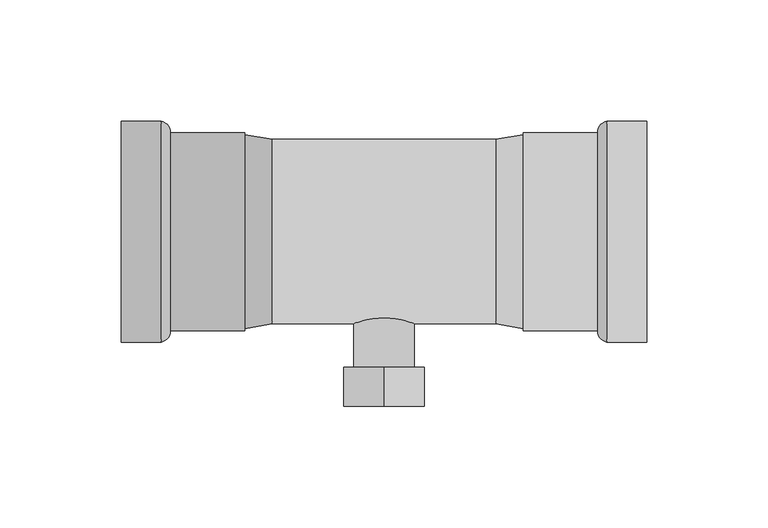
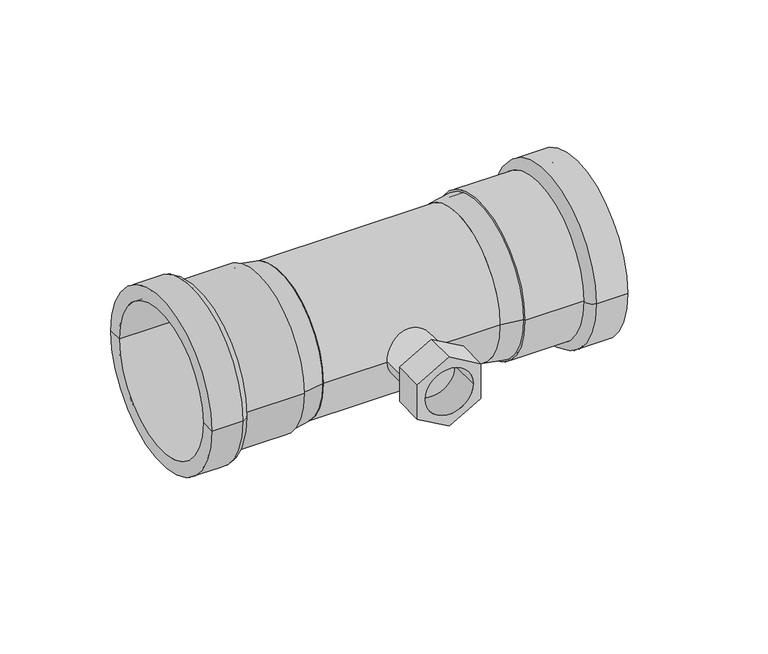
"""IFC4 building model written with IfcOpenShell, lengths in millimetres: pipe fitting geometry, VALTEC_VTi.932.I_Тройник с переходом на внутреннюю резьбу нержавеющая сталь : VTi.932.I."""

from ifc_helpers import new_model, si_unit, point, frame, origin, origin_2d, place, context, project, spatial, polyline, circle_curve, ellipse_curve, trimmed, segment, composite_curve, outline, extrude, source, transform, mapped, element, save
from ifc_brep_helpers import plane_surface, cylinder_surface, revolved_surface, advanced_brep


def pipe_fitting_9bb2d5ee(model_context):
    return source(origin(), model_context, "Body", "SolidModel", [
        advanced_brep(
        [(108.31, -38.05, 0.0), (108.31, -45.5, 0.0), (108.31, 45.5, 0.0), (108.31, 38.05, 0.0), (57.5, -38.05, 0.0), (57.5, 38.05, 0.0), (57.5, -40.75, 0.0), (57.5, 40.75, 0.0), (88.06, -40.75, 0.0), (88.06, 40.75, 0.0), (91.91, -45.5, 0.0), (91.91, 45.5, 0.0)],
        [
            (0, 1),
            (1, 2, circle_curve(frame((108.31, 0.0, 0.0), z_axis=(1.0, 0.0, 0.0), x_axis=(0.0, 1.0, 0.0)), 45.5)),
            (2, 3),
            (3, 0, circle_curve(frame((108.31, 0.0, 0.0), z_axis=(-1.0, 0.0, 0.0), x_axis=(0.0, 1.0, 0.0)), 38.05)),
            (2, 1, circle_curve(frame((108.31, 0.0, 0.0), z_axis=(1.0, 0.0, 0.0), x_axis=(0.0, 1.0, 0.0)), 45.5)),
            (0, 3, circle_curve(frame((108.31, 0.0, 0.0), z_axis=(-1.0, 0.0, 0.0), x_axis=(0.0, 1.0, 0.0)), 38.05)),
            (4, 0),
            (3, 5),
            (5, 4, circle_curve(frame((57.5, 0.0, 0.0), z_axis=(-1.0, 0.0, 0.0), x_axis=(0.0, 1.0, 0.0)), 38.05)),
            (4, 5, circle_curve(frame((57.5, 0.0, 0.0), z_axis=(-1.0, 0.0, 0.0), x_axis=(0.0, 1.0, 0.0)), 38.05)),
            (6, 4),
            (5, 7),
            (7, 6, circle_curve(frame((57.5, 0.0, 0.0), z_axis=(-1.0, 0.0, 0.0), x_axis=(0.0, 1.0, 0.0)), 40.75)),
            (6, 7, circle_curve(frame((57.5, 0.0, 0.0), z_axis=(-1.0, 0.0, 0.0), x_axis=(0.0, 1.0, 0.0)), 40.75)),
            (8, 6),
            (7, 9),
            (9, 8, circle_curve(frame((88.06, 0.0, 0.0), z_axis=(-1.0, 0.0, 0.0), x_axis=(0.0, 1.0, 0.0)), 40.75)),
            (8, 9, circle_curve(frame((88.06, 0.0, 0.0), z_axis=(-1.0, 0.0, 0.0), x_axis=(0.0, 1.0, 0.0)), 40.75)),
            (10, 8, circle_curve(frame((92.7765873, -40.862345, 0.0), z_axis=(0.0, 0.0, -1.0), x_axis=(-1.0, 0.0, 0.0)), 4.7179251)),
            (9, 11, circle_curve(frame((92.7765873, 40.862345, 0.0), z_axis=(0.0, 0.0, -1.0), x_axis=(-1.0, 0.0, 0.0)), 4.7179251)),
            (11, 10, circle_curve(frame((91.91, 0.0, 0.0), z_axis=(-1.0, 0.0, 0.0), x_axis=(0.0, 1.0, 0.0)), 45.5)),
            (10, 11, circle_curve(frame((91.91, 0.0, 0.0), z_axis=(-1.0, 0.0, 0.0), x_axis=(0.0, 1.0, 0.0)), 45.5)),
            (1, 10),
            (11, 2),
        ],
        [
            plane_surface(frame((108.31, 0.0, 0.0), z_axis=(1.0, 0.0, 0.0), x_axis=(0.0, 1.0, 0.0))),
            revolved_surface(polyline([(108.31, 38.05, 0.0), (57.5, 38.05, 0.0)]), (78.4606392, 0.0, 0.0), (1.0, 0.0, 0.0)),
            plane_surface(frame((57.5, 0.0, 0.0), z_axis=(-1.0, 0.0, 0.0), x_axis=(0.0, 1.0, 0.0))),
            cylinder_surface(frame((78.4606392, 0.0, 0.0), z_axis=(1.0, 0.0, 0.0), x_axis=(0.0, 1.0, 0.0)), 40.75),
            revolved_surface(trimmed(ellipse_curve(frame((92.7765873, 40.862345, 0.0), z_axis=(0.0, 0.0, -1.0), x_axis=(-1.0, 0.0, 0.0)), 4.7179251, 4.7179251), [point((88.06, 40.75, 0.0))], [point((91.91, 45.5, 0.0))], True, "CARTESIAN"), (78.4606392, 0.0, 0.0), (1.0, 0.0, 0.0)),
            cylinder_surface(frame((78.4606392, 0.0, 0.0), z_axis=(1.0, 0.0, 0.0), x_axis=(0.0, 1.0, 0.0)), 45.5),
        ],
        [
            (0, [[1, 2, 3, 4]]),
            (0, [[-3, 5, -1, 6]]),
            (1, [[7, -4, 8, 9]]),
            (1, [[-8, -6, -7, 10]]),
            (2, [[11, -9, 12, 13]]),
            (2, [[-12, -10, -11, 14]]),
            (3, [[15, -13, 16, 17]]),
            (3, [[-16, -14, -15, 18]]),
            (4, [[19, -17, 20, 21]]),
            (4, [[-20, -18, -19, 22]]),
            (5, [[23, -21, 24, -2]]),
            (5, [[-24, -22, -23, -5]]),
        ],
    ),
        advanced_brep(
        [(-108.31, -38.05, 0.0), (-108.31, 38.05, 0.0), (-108.31, 45.5, 0.0), (-108.31, -45.5, 0.0), (-57.5, -38.05, 0.0), (-57.5, 38.05, 0.0), (-57.5, -40.75, 0.0), (-57.5, 40.75, 0.0), (-88.06, -40.75, 0.0), (-88.06, 40.75, 0.0), (-91.91, -45.5, 0.0), (-91.91, 45.5, 0.0)],
        [
            (0, 1, circle_curve(frame((-108.31, 0.0, 0.0), z_axis=(1.0, 0.0, 0.0), x_axis=(0.0, 1.0, 0.0)), 38.05)),
            (1, 2),
            (2, 3, circle_curve(frame((-108.31, 0.0, 0.0), z_axis=(-1.0, 0.0, 0.0), x_axis=(0.0, 1.0, 0.0)), 45.5)),
            (3, 0),
            (1, 0, circle_curve(frame((-108.31, 0.0, 0.0), z_axis=(1.0, 0.0, 0.0), x_axis=(0.0, 1.0, 0.0)), 38.05)),
            (3, 2, circle_curve(frame((-108.31, 0.0, 0.0), z_axis=(-1.0, 0.0, 0.0), x_axis=(0.0, 1.0, 0.0)), 45.5)),
            (4, 5, circle_curve(frame((-57.5, 0.0, 0.0), z_axis=(1.0, 0.0, 0.0), x_axis=(0.0, 1.0, 0.0)), 38.05)),
            (5, 1),
            (0, 4),
            (5, 4, circle_curve(frame((-57.5, 0.0, 0.0), z_axis=(1.0, 0.0, 0.0), x_axis=(0.0, 1.0, 0.0)), 38.05)),
            (6, 7, circle_curve(frame((-57.5, 0.0, 0.0), z_axis=(1.0, 0.0, 0.0), x_axis=(0.0, 1.0, 0.0)), 40.75)),
            (7, 5),
            (4, 6),
            (7, 6, circle_curve(frame((-57.5, 0.0, 0.0), z_axis=(1.0, 0.0, 0.0), x_axis=(0.0, 1.0, 0.0)), 40.75)),
            (8, 9, circle_curve(frame((-88.06, 0.0, 0.0), z_axis=(1.0, 0.0, 0.0), x_axis=(0.0, 1.0, 0.0)), 40.75)),
            (9, 7),
            (6, 8),
            (9, 8, circle_curve(frame((-88.06, 0.0, 0.0), z_axis=(1.0, 0.0, 0.0), x_axis=(0.0, 1.0, 0.0)), 40.75)),
            (10, 11, circle_curve(frame((-91.91, 0.0, 0.0), z_axis=(1.0, 0.0, 0.0), x_axis=(0.0, 1.0, 0.0)), 45.5)),
            (11, 9, circle_curve(frame((-92.7765873, 40.862345, 0.0), z_axis=(0.0, 0.0, -1.0), x_axis=(1.0, 0.0, 0.0)), 4.7179251)),
            (8, 10, circle_curve(frame((-92.7765873, -40.862345, 0.0), z_axis=(0.0, 0.0, -1.0), x_axis=(1.0, 0.0, 0.0)), 4.7179251)),
            (11, 10, circle_curve(frame((-91.91, 0.0, 0.0), z_axis=(1.0, 0.0, 0.0), x_axis=(0.0, 1.0, 0.0)), 45.5)),
            (2, 11),
            (10, 3),
        ],
        [
            plane_surface(frame((-108.31, 0.0, 0.0), z_axis=(-1.0, 0.0, 0.0), x_axis=(0.0, 1.0, 0.0))),
            revolved_surface(polyline([(-108.31, 38.05, 0.0), (-57.5, 38.05, 0.0)]), (-78.4606392, 0.0, 0.0), (-1.0, 0.0, 0.0)),
            plane_surface(frame((-57.5, 0.0, 0.0), z_axis=(1.0, 0.0, 0.0), x_axis=(0.0, 1.0, 0.0))),
            cylinder_surface(frame((-78.4606392, 0.0, 0.0), z_axis=(-1.0, 0.0, 0.0), x_axis=(0.0, 1.0, 0.0)), 40.75),
            revolved_surface(trimmed(ellipse_curve(frame((-92.7765873, 40.862345, 0.0), z_axis=(0.0, 0.0, 1.0), x_axis=(1.0, 0.0, 0.0)), 4.7179251, 4.7179251), [point((-88.06, 40.75, 0.0))], [point((-91.91, 45.5, 0.0))], True, "CARTESIAN"), (-78.4606392, 0.0, 0.0), (-1.0, 0.0, 0.0)),
            cylinder_surface(frame((-78.4606392, 0.0, 0.0), z_axis=(-1.0, 0.0, 0.0), x_axis=(0.0, 1.0, 0.0)), 45.5),
        ],
        [
            (0, [[1, 2, 3, 4]]),
            (0, [[5, -4, 6, -2]]),
            (1, [[7, 8, -1, 9]]),
            (1, [[10, -9, -5, -8]]),
            (2, [[11, 12, -7, 13]]),
            (2, [[14, -13, -10, -12]]),
            (3, [[15, 16, -11, 17]]),
            (3, [[18, -17, -14, -16]]),
            (4, [[19, 20, -15, 21]]),
            (4, [[22, -21, -18, -20]]),
            (5, [[-3, 23, -19, 24]]),
            (5, [[-6, -24, -22, -23]]),
        ],
    ),
        extrude(outline(polyline([(19.0525589, 0.0), (9.5262794, -16.5), (-9.5262794, -16.5), (-19.0525589, 0.0), (-9.5262794, 16.5), (9.5262794, 16.5), (19.0525589, 0.0)]), holes=[composite_curve([segment(trimmed(circle_curve(origin_2d(), 12.5), [point((0.0, -12.5))], [point((0.0, 12.5))], True, "CARTESIAN"), True, "CONTINUOUS"), segment(trimmed(circle_curve(origin_2d(), 12.5), [point((0.0, 12.5))], [point((0.0, -12.5))], True, "CARTESIAN"), True, "CONTINUOUS")], self_intersect=False)]), frame((0.0, -72.0, 0.0), z_axis=(0.0, 1.0, 0.0), x_axis=(0.0, 0.0, 1.0)), (0.0, 0.0, 1.0), 16.0),
        extrude(outline(composite_curve([segment(trimmed(circle_curve(origin_2d(), 12.5), [point((0.0, -12.5))], [point((0.0, 12.5))], False, "CARTESIAN"), True, "CONTINUOUS"), segment(trimmed(circle_curve(origin_2d(), 12.5), [point((0.0, 12.5))], [point((0.0, -12.5))], False, "CARTESIAN"), True, "CONTINUOUS")], self_intersect=False)), frame((0.0, -56.0, 0.0), z_axis=(0.0, 1.0, 0.0), x_axis=(0.0, 0.0, 1.0)), (0.0, 0.0, 1.0), 56.0),
        extrude(outline(composite_curve([segment(trimmed(circle_curve(origin_2d(), 38.05), [point((-38.05, 0.0))], [point((38.05, 0.0))], False, "CARTESIAN"), True, "CONTINUOUS"), segment(trimmed(circle_curve(origin_2d(), 38.05), [point((38.05, 0.0))], [point((-38.05, 0.0))], False, "CARTESIAN"), True, "CONTINUOUS")], self_intersect=False)), frame((-46.0, 0.0, 0.0), z_axis=(1.0, 0.0, 0.0), x_axis=(0.0, 1.0, 0.0)), (0.0, 0.0, 1.0), 92.0),
        advanced_brep(
        [(57.5, -39.9525, 0.0), (57.5, 39.9525, 0.0), (46.0, -38.05, 0.0), (46.0, 38.05, 0.0)],
        [
            (0, 1, circle_curve(frame((57.5, 0.0, 0.0), z_axis=(1.0, 0.0, 0.0), x_axis=(0.0, -1.0, 0.0)), 39.9525)),
            (1, 0, circle_curve(frame((57.5, 0.0, 0.0), z_axis=(1.0, 0.0, 0.0), x_axis=(0.0, 1.0, 0.0)), 39.9525)),
            (2, 3, circle_curve(frame((46.0, 0.0, 0.0), z_axis=(-1.0, 0.0, 0.0), x_axis=(0.0, 1.0, 0.0)), 38.05)),
            (3, 2, circle_curve(frame((46.0, 0.0, 0.0), z_axis=(-1.0, 0.0, 0.0), x_axis=(0.0, -1.0, 0.0)), 38.05)),
            (3, 1),
            (0, 2),
        ],
        [
            plane_surface(frame((57.5, 0.0, 0.0), z_axis=(1.0, 0.0, 0.0), x_axis=(0.0, 0.0, 1.0))),
            plane_surface(frame((46.0, 0.0, 0.0), z_axis=(-1.0, 0.0, 0.0), x_axis=(0.0, 0.0, 1.0))),
            revolved_surface(polyline([(46.0, 38.05, 0.0), (57.5, 39.9525, 0.0)]), (-184.0, 0.0, 0.0), (1.0, 0.0, 0.0)),
            revolved_surface(polyline([(46.0, -38.05, 0.0), (57.5, -39.9525, 0.0)]), (-184.0, 0.0, 0.0), (1.0, 0.0, 0.0)),
        ],
        [
            (0, [[1, 2]]),
            (1, [[3, 4]]),
            (2, [[-4, 5, -1, 6]]),
            (3, [[-3, -6, -2, -5]]),
        ],
    ),
        advanced_brep(
        [(-57.5, -39.9525, 0.0), (-57.5, 39.9525, 0.0), (-46.0, -38.05, 0.0), (-46.0, 38.05, 0.0)],
        [
            (0, 1, circle_curve(frame((-57.5, 0.0, 0.0), z_axis=(-1.0, 0.0, 0.0), x_axis=(0.0, -1.0, 0.0)), 39.9525)),
            (1, 0, circle_curve(frame((-57.5, 0.0, 0.0), z_axis=(-1.0, 0.0, 0.0), x_axis=(0.0, 1.0, 0.0)), 39.9525)),
            (2, 3, circle_curve(frame((-46.0, 0.0, 0.0), z_axis=(1.0, 0.0, 0.0), x_axis=(0.0, 1.0, 0.0)), 38.05)),
            (3, 2, circle_curve(frame((-46.0, 0.0, 0.0), z_axis=(1.0, 0.0, 0.0), x_axis=(0.0, -1.0, 0.0)), 38.05)),
            (2, 0),
            (1, 3),
        ],
        [
            plane_surface(frame((-57.5, 0.0, 0.0), z_axis=(-1.0, 0.0, 0.0), x_axis=(0.0, 0.0, -1.0))),
            plane_surface(frame((-46.0, 0.0, 0.0), z_axis=(1.0, 0.0, 0.0), x_axis=(0.0, 0.0, -1.0))),
            revolved_surface(polyline([(-46.0, -38.05, 0.0), (-57.5, -39.9525, 0.0)]), (184.0, 0.0, 0.0), (-1.0, 0.0, 0.0)),
            revolved_surface(polyline([(-46.0, 38.05, 0.0), (-57.5, 39.9525, 0.0)]), (184.0, 0.0, 0.0), (-1.0, 0.0, 0.0)),
        ],
        [
            (0, [[1, 2]]),
            (1, [[3, 4]]),
            (2, [[-3, 5, -2, 6]]),
            (3, [[-4, -6, -1, -5]]),
        ],
    ),
    ])


if __name__ == "__main__":
    model = new_model("IFC4")
    model_context = context("Model", 3, world=origin())
    ifc_project = project(units=[si_unit("LENGTHUNIT", "METRE", prefix="MILLI")], contexts=[model_context])
    site = spatial("IfcSite", under=ifc_project)
    building = spatial("IfcBuilding", under=site)
    placement = place(None, origin())
    pipe_fitting_shape = pipe_fitting_9bb2d5ee(model_context)
    element("IfcPipeFitting", 1, ObjectType="VALTEC_VTi.932.I_Тройник с переходом на внутреннюю резьбу нержавеющая сталь : VTi.932.I", at=placement, inside=building, context=model_context, shape_type="MappedRepresentation", body=[
        mapped(pipe_fitting_shape, transform((0.0, 0.0, 0.0), x_axis=(1.0, 0.0, 0.0), y_axis=(0.0, 1.0, 0.0), z_axis=(0.0, 0.0, 1.0))),
    ])
    save(model, "model.ifc")
